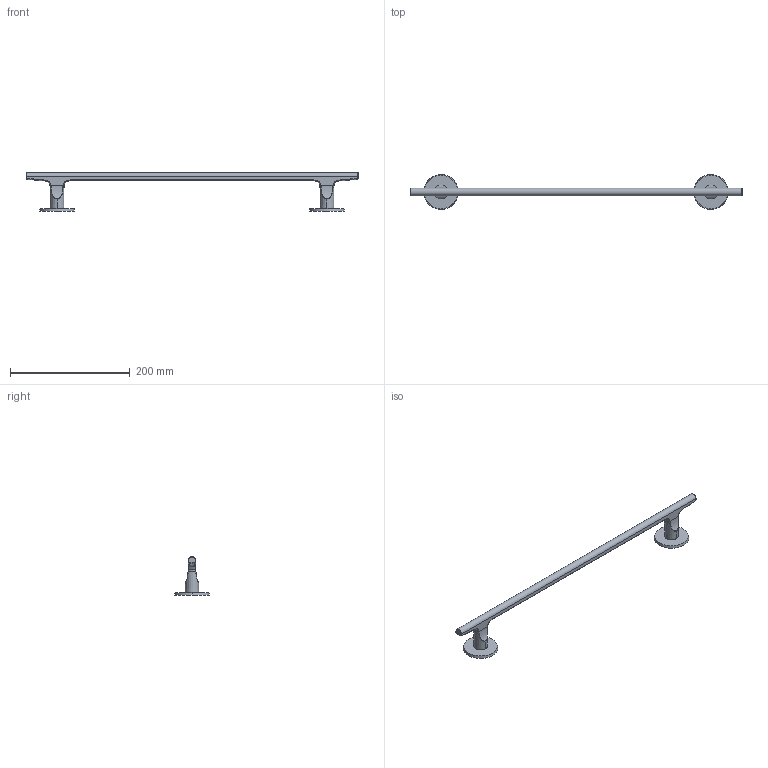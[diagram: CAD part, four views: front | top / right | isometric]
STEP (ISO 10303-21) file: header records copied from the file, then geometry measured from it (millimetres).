
FILE_DESCRIPTION((''),'2;1');
FILE_NAME('80000L4110000000_SW0001','2025-07-11T12:22:30',('Luca'),(''),'CREO PARAMETRIC BY PTC INC, 2025010','CREO PARAMETRIC BY PTC INC, 2025010','');
FILE_SCHEMA(('AUTOMOTIVE_DESIGN { 1 0 10303 214 1 1 1 1 }'));
Length unit declared in the file: millimetre
Products named in the file (1): 80000L4110000000_SW0001
Bounding box: 553.6 x 58 x 64.5 mm (x, y, z)
Volume: 141458.4 mm3; surface area: 42407.8 mm2
Topology: 1 solids, 1 shells, 94 faces, 214 edges, 124 vertices
Faces by surface type: bspline 58, plane 8, cone 8, extrusion 7, cylinder 7, torus 6
Entity records: 11769 total; most frequent: CARTESIAN_POINT 9309, ORIENTED_EDGE 428, DIRECTION 230, EDGE_CURVE 214, B_SPLINE_CURVE_WITH_KNOTS 131, VERTEX_POINT 124, PRESENTATION_STYLE_ASSIGNMENT 101, STYLED_ITEM 101
